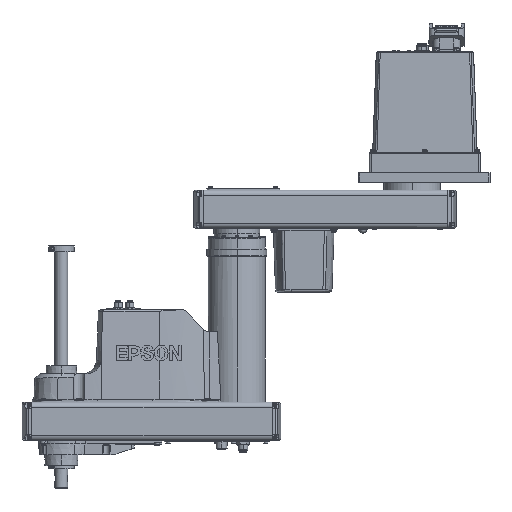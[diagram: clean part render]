
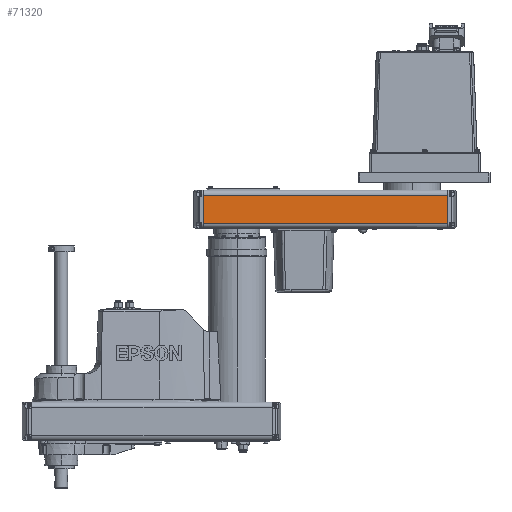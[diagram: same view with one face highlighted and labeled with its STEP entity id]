
A CAD part, top view. The second image highlights one B-rep face of the part: STEP entity #71320.
In plain terms, the highlighted planar face has unit normal (0.018, 0, 1) as drawn and (0, 0, -1) by its records, which use the part's own axes.
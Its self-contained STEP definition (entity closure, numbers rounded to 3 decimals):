
#7149 = FACE_OUTER_BOUND ( 'NONE', #127208, .T. ) ;
#10081 = CARTESIAN_POINT ( 'NONE',  ( -330., 52., -55.5 ) ) ;
#14412 = DIRECTION ( 'NONE',  ( 0., -1., 0. ) ) ;
#16699 = VECTOR ( 'NONE', #43078, 1000. ) ;
#17322 = VERTEX_POINT ( 'NONE', #122430 ) ;
#33314 = LINE ( 'NONE', #10081, #16699 ) ;
#38739 = LINE ( 'NONE', #99185, #56260 ) ;
#40679 = EDGE_CURVE ( 'NONE', #17322, #83610, #65226, .T. ) ;
#41313 = ORIENTED_EDGE ( 'NONE', *, *, #112328, .T. ) ;
#43078 = DIRECTION ( 'NONE',  ( 0., -1., 0. ) ) ;
#45243 = VECTOR ( 'NONE', #14412, 1000. ) ;
#51240 = PLANE ( 'NONE',  #84787 ) ;
#56260 = VECTOR ( 'NONE', #111142, 1000. ) ;
#60055 = CARTESIAN_POINT ( 'NONE',  ( 53.5, 52., -55.5 ) ) ;
#61360 = EDGE_CURVE ( 'NONE', #118781, #17322, #33314, .T. ) ;
#63238 = CARTESIAN_POINT ( 'NONE',  ( 53.5, 52., -55.5 ) ) ;
#65226 = LINE ( 'NONE', #98822, #97009 ) ;
#71320 = ADVANCED_FACE ( 'NONE', ( #7149 ), #51240, .F. ) ;
#83610 = VERTEX_POINT ( 'NONE', #136785 ) ;
#84787 = AXIS2_PLACEMENT_3D ( 'NONE', #118461, #140840, #95317 ) ;
#94924 = ORIENTED_EDGE ( 'NONE', *, *, #61360, .F. ) ;
#95317 = DIRECTION ( 'NONE',  ( 1., 0., 0. ) ) ;
#97009 = VECTOR ( 'NONE', #117721, 1000. ) ;
#98822 = CARTESIAN_POINT ( 'NONE',  ( -330., 8., -55.5 ) ) ;
#99185 = CARTESIAN_POINT ( 'NONE',  ( 53.5, 52., -55.5 ) ) ;
#103713 = ORIENTED_EDGE ( 'NONE', *, *, #109222, .F. ) ;
#109222 = EDGE_CURVE ( 'NONE', #111243, #118781, #38739, .T. ) ;
#111142 = DIRECTION ( 'NONE',  ( -1., 0., 0. ) ) ;
#111243 = VERTEX_POINT ( 'NONE', #63238 ) ;
#112328 = EDGE_CURVE ( 'NONE', #111243, #83610, #126511, .T. ) ;
#117721 = DIRECTION ( 'NONE',  ( 1., 0., 0. ) ) ;
#118461 = CARTESIAN_POINT ( 'NONE',  ( 67.8, 8., -55.5 ) ) ;
#118781 = VERTEX_POINT ( 'NONE', #142673 ) ;
#122430 = CARTESIAN_POINT ( 'NONE',  ( -330., 8., -55.5 ) ) ;
#126511 = LINE ( 'NONE', #60055, #45243 ) ;
#127208 = EDGE_LOOP ( 'NONE', ( #94924, #103713, #41313, #134583 ) ) ;
#134583 = ORIENTED_EDGE ( 'NONE', *, *, #40679, .F. ) ;
#136785 = CARTESIAN_POINT ( 'NONE',  ( 53.5, 8., -55.5 ) ) ;
#140840 = DIRECTION ( 'NONE',  ( 0., 0., 1. ) ) ;
#142673 = CARTESIAN_POINT ( 'NONE',  ( -330., 52., -55.5 ) ) ;
